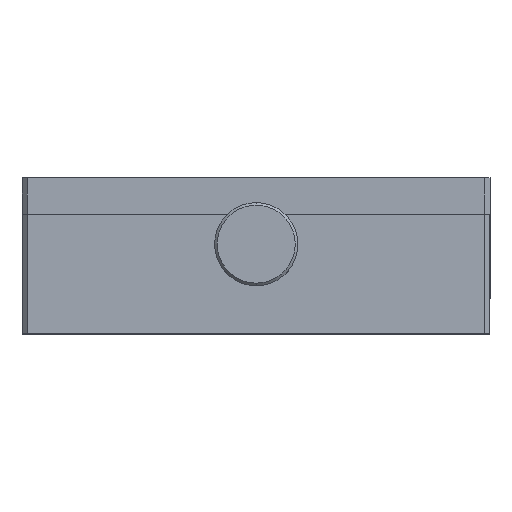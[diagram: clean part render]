
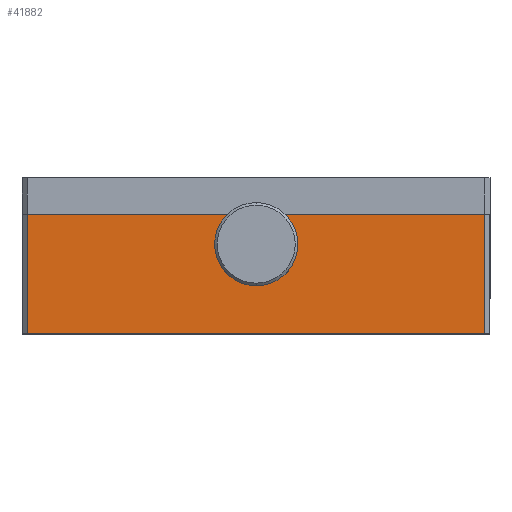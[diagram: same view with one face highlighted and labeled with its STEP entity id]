
A CAD part, top view. The second image highlights one B-rep face of the part: STEP entity #41882.
In plain terms, the highlighted planar face has unit normal (0, 0, 1).
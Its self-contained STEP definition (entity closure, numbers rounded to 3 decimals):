
#680 = DIRECTION ( 'NONE',  ( 0., 0., -1. ) ) ;
#1144 = DIRECTION ( 'NONE',  ( 1., 0., 0. ) ) ;
#2228 = VERTEX_POINT ( 'NONE', #10222 ) ;
#3142 = EDGE_CURVE ( 'NONE', #41635, #2228, #13779, .T. ) ;
#3952 = VECTOR ( 'NONE', #99851, 1000. ) ;
#7359 = ORIENTED_EDGE ( 'NONE', *, *, #8099, .T. ) ;
#8021 = AXIS2_PLACEMENT_3D ( 'NONE', #8398, #680, #78906 ) ;
#8099 = EDGE_CURVE ( 'NONE', #18626, #96036, #21617, .T. ) ;
#8398 = CARTESIAN_POINT ( 'NONE',  ( -95.866, -75.767, 8.858 ) ) ;
#10222 = CARTESIAN_POINT ( 'NONE',  ( -94.866, -75.767, 8.858 ) ) ;
#10418 = FACE_OUTER_BOUND ( 'NONE', #85432, .T. ) ;
#11500 = DIRECTION ( 'NONE',  ( 1., 0., 0. ) ) ;
#12895 = CARTESIAN_POINT ( 'NONE',  ( -54.866, -58.267, 8.858 ) ) ;
#13779 = LINE ( 'NONE', #45683, #23861 ) ;
#16767 = EDGE_CURVE ( 'NONE', #2228, #18626, #94319, .T. ) ;
#18626 = VERTEX_POINT ( 'NONE', #37129 ) ;
#20329 = CARTESIAN_POINT ( 'NONE',  ( -6.866, -52.767, 8.858 ) ) ;
#21617 = LINE ( 'NONE', #53012, #3952 ) ;
#23861 = VECTOR ( 'NONE', #62657, 1000. ) ;
#25891 = EDGE_CURVE ( 'NONE', #93669, #35137, #29265, .T. ) ;
#27342 = ORIENTED_EDGE ( 'NONE', *, *, #101607, .F. ) ;
#29265 = CIRCLE ( 'NONE', #42409, 4. ) ;
#34173 = CARTESIAN_POINT ( 'NONE',  ( -50.866, -58.267, 8.858 ) ) ;
#35137 = VERTEX_POINT ( 'NONE', #12895 ) ;
#37129 = CARTESIAN_POINT ( 'NONE',  ( -6.866, -75.767, 8.858 ) ) ;
#38231 = CARTESIAN_POINT ( 'NONE',  ( -95.866, -52.767, 8.858 ) ) ;
#39808 = CARTESIAN_POINT ( 'NONE',  ( -94.866, -52.767, 8.858 ) ) ;
#41635 = VERTEX_POINT ( 'NONE', #39808 ) ;
#41825 = PLANE ( 'NONE',  #8021 ) ;
#41882 = ADVANCED_FACE ( 'NONE', ( #80942, #10418 ), #41825, .F. ) ;
#42409 = AXIS2_PLACEMENT_3D ( 'NONE', #34173, #50623, #11500 ) ;
#44250 = AXIS2_PLACEMENT_3D ( 'NONE', #88950, #81736, #73505 ) ;
#45683 = CARTESIAN_POINT ( 'NONE',  ( -94.866, -75.767, 8.858 ) ) ;
#46852 = EDGE_CURVE ( 'NONE', #35137, #93669, #73854, .T. ) ;
#50623 = DIRECTION ( 'NONE',  ( 0., 0., 1. ) ) ;
#53012 = CARTESIAN_POINT ( 'NONE',  ( -6.866, -75.767, 8.858 ) ) ;
#59197 = ORIENTED_EDGE ( 'NONE', *, *, #16767, .T. ) ;
#62657 = DIRECTION ( 'NONE',  ( 0., -1., 0. ) ) ;
#64504 = ORIENTED_EDGE ( 'NONE', *, *, #46852, .F. ) ;
#69718 = ORIENTED_EDGE ( 'NONE', *, *, #3142, .T. ) ;
#69721 = ORIENTED_EDGE ( 'NONE', *, *, #25891, .F. ) ;
#72000 = VECTOR ( 'NONE', #1144, 1000. ) ;
#73505 = DIRECTION ( 'NONE',  ( 1., 0., 0. ) ) ;
#73854 = CIRCLE ( 'NONE', #44250, 4. ) ;
#78351 = DIRECTION ( 'NONE',  ( 1., 0., 0. ) ) ;
#78870 = CARTESIAN_POINT ( 'NONE',  ( -95.866, -75.767, 8.858 ) ) ;
#78906 = DIRECTION ( 'NONE',  ( -1., 0., 0. ) ) ;
#80942 = FACE_BOUND ( 'NONE', #94097, .T. ) ;
#81736 = DIRECTION ( 'NONE',  ( 0., 0., 1. ) ) ;
#85432 = EDGE_LOOP ( 'NONE', ( #59197, #7359, #27342, #69718 ) ) ;
#88950 = CARTESIAN_POINT ( 'NONE',  ( -50.866, -58.267, 8.858 ) ) ;
#89635 = VECTOR ( 'NONE', #78351, 1000. ) ;
#92828 = CARTESIAN_POINT ( 'NONE',  ( -46.866, -58.267, 8.858 ) ) ;
#93669 = VERTEX_POINT ( 'NONE', #92828 ) ;
#94097 = EDGE_LOOP ( 'NONE', ( #69721, #64504 ) ) ;
#94319 = LINE ( 'NONE', #78870, #72000 ) ;
#96036 = VERTEX_POINT ( 'NONE', #20329 ) ;
#99851 = DIRECTION ( 'NONE',  ( 0., 1., 0. ) ) ;
#101012 = LINE ( 'NONE', #38231, #89635 ) ;
#101607 = EDGE_CURVE ( 'NONE', #41635, #96036, #101012, .T. ) ;
